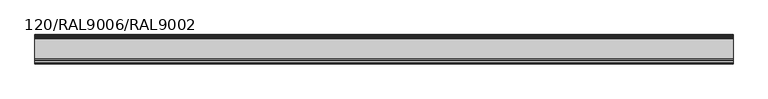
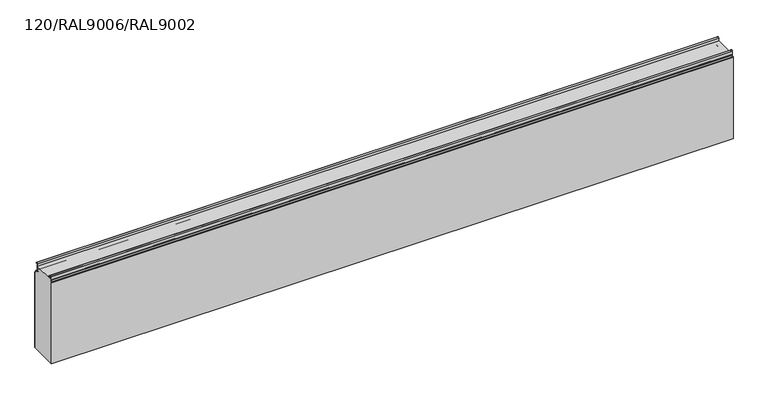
"""IFC4 building model written with IfcOpenShell, lengths in millimetres: plate geometry, TR_C_H_FHL_Panel_cut_TONGUE : 120/RAL9006/RAL9002."""

from ifc_helpers import new_model, si_unit, point, frame, frame_2d, origin, place, context, project, spatial, polyline, circle_curve, trimmed, segment, composite_curve, outline, extrude, source, transform, mapped, element, save


def plate_120_ral9006_ral9002_3dddc61d(model_context):
    return source(origin(), model_context, "Body", "SweptSolid", [
        extrude(outline(composite_curve([segment(polyline([(-17.4455763, 500.0), (-17.6, 498.2349288), (-17.6, 479.1)]), True, "CONTINUOUS"), segment(trimmed(circle_curve(frame_2d((-14.8, 479.1)), 2.8), [point((-17.6, 479.1))], [point((-14.8, 476.3))], True, "CARTESIAN"), True, "CONTINUOUS"), segment(polyline([(-14.8, 476.3), (-8.9, 476.3)]), True, "CONTINUOUS"), segment(trimmed(circle_curve(frame_2d((-8.9, 474.4)), 1.9), [point((-8.9, 476.3))], [point((-7.0, 474.4))], False, "CARTESIAN"), True, "CONTINUOUS"), segment(polyline([(-7.0, 474.4), (-7.0, 471.5838835)]), True, "CONTINUOUS"), segment(trimmed(circle_curve(frame_2d((-4.2, 471.5838835)), 2.8), [point((-7.0, 471.5838835))], [point((-6.179899, 469.6039845))], True, "CARTESIAN"), True, "CONTINUOUS"), segment(polyline([(-6.179899, 469.6039845), (-1.3564971, 464.7805826)]), True, "CONTINUOUS"), segment(trimmed(circle_curve(frame_2d((-2.7, 463.4370797)), 1.9), [point((-1.3564971, 464.7805826))], [point((-0.8, 463.4370797))], False, "CARTESIAN"), True, "CONTINUOUS"), segment(polyline([(-0.8, 463.4370797), (-0.8, 130.0), (-119.2, 130.0), (-119.2, 489.8218254)]), True, "CONTINUOUS"), segment(trimmed(circle_curve(frame_2d((-117.0, 489.8218254)), 2.2), [point((-119.2, 489.8218254))], [point((-118.5556349, 491.3774603))], False, "CARTESIAN"), True, "CONTINUOUS"), segment(polyline([(-118.5556349, 491.3774603), (-114.1665476, 495.7665476)]), True, "CONTINUOUS"), segment(trimmed(circle_curve(frame_2d((-116.5, 498.1)), 3.3), [point((-114.1665476, 495.7665476))], [point((-113.2, 498.1))], True, "CARTESIAN"), True, "CONTINUOUS"), segment(polyline([(-113.2, 498.1), (-113.2, 500.0), (-17.4455763, 500.0)]), True, "CONTINUOUS")], self_intersect=False)), frame((-1370.0, 0.0, 0.0), z_axis=(1.0, 0.0, 0.0), x_axis=(0.0, 1.0, 0.0)), (0.0, 0.0, 1.0), 2850.0),
        extrude(outline(composite_curve([segment(trimmed(circle_curve(frame_2d((-2.7, 463.4370797)), 1.9), [point((-0.8, 463.4370797))], [point((-1.3564971, 464.7805826))], True, "CARTESIAN"), True, "CONTINUOUS"), segment(polyline([(-1.3564971, 464.7805826), (-6.179899, 469.6039845)]), True, "CONTINUOUS"), segment(trimmed(circle_curve(frame_2d((-4.2, 471.5838835)), 2.8), [point((-6.179899, 469.6039845))], [point((-7.0, 471.5838835))], False, "CARTESIAN"), True, "CONTINUOUS"), segment(polyline([(-7.0, 471.5838835), (-7.0, 474.4)]), True, "CONTINUOUS"), segment(trimmed(circle_curve(frame_2d((-8.9, 474.4)), 1.9), [point((-7.0, 474.4))], [point((-8.9, 476.3))], True, "CARTESIAN"), True, "CONTINUOUS"), segment(polyline([(-8.9, 476.3), (-14.8, 476.3)]), True, "CONTINUOUS"), segment(trimmed(circle_curve(frame_2d((-14.8, 479.1)), 2.8), [point((-14.8, 476.3))], [point((-17.6, 479.1))], False, "CARTESIAN"), True, "CONTINUOUS"), segment(polyline([(-17.6, 479.1), (-17.6, 498.2349288), (-16.5051936, 510.748623)]), True, "CONTINUOUS"), segment(trimmed(circle_curve(frame_2d((-12.5204148, 510.4)), 4.0), [point((-16.5051936, 510.748623))], [point((-8.7383405, 511.7022726))], False, "CARTESIAN"), True, "CONTINUOUS"), segment(polyline([(-8.7383405, 511.7022726), (-8.4287263, 510.8030877), (-9.1851412, 510.5426332), (-9.4947554, 511.4418181)]), True, "CONTINUOUS"), segment(trimmed(circle_curve(frame_2d((-12.5204148, 510.4)), 3.2), [point((-9.4947554, 511.4418181))], [point((-15.7082379, 510.6788984))], True, "CARTESIAN"), True, "CONTINUOUS"), segment(polyline([(-15.7082379, 510.6788984), (-16.8, 498.2), (-16.8, 479.1)]), True, "CONTINUOUS"), segment(trimmed(circle_curve(frame_2d((-14.8, 479.1)), 2.0), [point((-16.8, 479.1))], [point((-14.8, 477.1))], True, "CARTESIAN"), True, "CONTINUOUS"), segment(polyline([(-14.8, 477.1), (-8.9, 477.1)]), True, "CONTINUOUS"), segment(trimmed(circle_curve(frame_2d((-8.9, 474.4)), 2.7), [point((-8.9, 477.1))], [point((-6.2, 474.4))], False, "CARTESIAN"), True, "CONTINUOUS"), segment(polyline([(-6.2, 474.4), (-6.2, 471.5838835)]), True, "CONTINUOUS"), segment(trimmed(circle_curve(frame_2d((-4.2, 471.5838835)), 2.0), [point((-6.2, 471.5838835))], [point((-5.6142136, 470.1696699))], True, "CARTESIAN"), True, "CONTINUOUS"), segment(polyline([(-5.6142136, 470.1696699), (-0.7908117, 465.346268)]), True, "CONTINUOUS"), segment(trimmed(circle_curve(frame_2d((-2.7, 463.4370797)), 2.7), [point((-0.7908117, 465.346268))], [point((0.0, 463.4370797))], False, "CARTESIAN"), True, "CONTINUOUS"), segment(polyline([(0.0, 463.4370797), (0.0, 130.0), (-0.8, 130.0), (-0.8, 463.4370797)]), True, "CONTINUOUS")], self_intersect=False)), frame((-1370.0, 0.0, 0.0), z_axis=(1.0, 0.0, 0.0), x_axis=(0.0, 1.0, 0.0)), (0.0, 0.0, 1.0), 2850.0),
        extrude(outline(composite_curve([segment(polyline([(-119.1213203, 491.9431458), (-114.732233, 496.332233)]), True, "CONTINUOUS"), segment(trimmed(circle_curve(frame_2d((-116.5, 498.1)), 2.5), [point((-114.732233, 496.332233))], [point((-114.0, 498.1))], True, "CARTESIAN"), True, "CONTINUOUS"), segment(polyline([(-114.0, 498.1), (-114.0, 512.85)]), True, "CONTINUOUS"), segment(trimmed(circle_curve(frame_2d((-110.75, 512.85)), 3.25), [point((-114.0, 512.85))], [point((-107.5493748, 513.4143566))], False, "CARTESIAN"), True, "CONTINUOUS"), segment(polyline([(-107.5493748, 513.4143566), (-106.8060618, 509.1988193)]), True, "CONTINUOUS"), segment(trimmed(circle_curve(frame_2d((-103.1130328, 509.85)), 3.75), [point((-106.8060618, 509.1988193))], [point((-103.1130328, 506.1))], True, "CARTESIAN"), True, "CONTINUOUS"), segment(polyline([(-103.1130328, 506.1), (-99.0, 506.1), (-99.0, 505.3), (-103.1130328, 505.3)]), True, "CONTINUOUS"), segment(trimmed(circle_curve(frame_2d((-103.1130328, 509.85)), 4.55), [point((-103.1130328, 505.3))], [point((-107.5939081, 509.0599008))], False, "CARTESIAN"), True, "CONTINUOUS"), segment(polyline([(-107.5939081, 509.0599008), (-108.337221, 513.275438)]), True, "CONTINUOUS"), segment(trimmed(circle_curve(frame_2d((-110.75, 512.85)), 2.45), [point((-108.337221, 513.275438))], [point((-113.2, 512.85))], True, "CARTESIAN"), True, "CONTINUOUS"), segment(polyline([(-113.2, 512.85), (-113.2, 498.1)]), True, "CONTINUOUS"), segment(trimmed(circle_curve(frame_2d((-116.5, 498.1)), 3.3), [point((-113.2, 498.1))], [point((-114.1665476, 495.7665476))], False, "CARTESIAN"), True, "CONTINUOUS"), segment(polyline([(-114.1665476, 495.7665476), (-118.5556349, 491.3774603)]), True, "CONTINUOUS"), segment(trimmed(circle_curve(frame_2d((-117.0, 489.8218254)), 2.2), [point((-118.5556349, 491.3774603))], [point((-119.2, 489.8218254))], True, "CARTESIAN"), True, "CONTINUOUS"), segment(polyline([(-119.2, 489.8218254), (-119.2, 130.0), (-120.0, 130.0), (-120.0, 489.8218254)]), True, "CONTINUOUS"), segment(trimmed(circle_curve(frame_2d((-117.0, 489.8218254)), 3.0), [point((-120.0, 489.8218254))], [point((-119.1213203, 491.9431458))], False, "CARTESIAN"), True, "CONTINUOUS")], self_intersect=False)), frame((-1370.0, 0.0, 0.0), z_axis=(1.0, 0.0, 0.0), x_axis=(0.0, 1.0, 0.0)), (0.0, 0.0, 1.0), 2850.0),
    ])


if __name__ == "__main__":
    model = new_model("IFC4")
    model_context = context("Model", 3, world=origin())
    ifc_project = project(units=[si_unit("LENGTHUNIT", "METRE", prefix="MILLI")], contexts=[model_context])
    site = spatial("IfcSite", under=ifc_project)
    building = spatial("IfcBuilding", under=site)
    placement = place(None, origin())
    plate_120_ral9006_ral9002_shape = plate_120_ral9006_ral9002_3dddc61d(model_context)
    element("IfcPlate", 1, ObjectType="TR_C_H_FHL_Panel_cut_TONGUE : 120/RAL9006/RAL9002", at=placement, inside=building, context=model_context, shape_type="MappedRepresentation", body=[
        mapped(plate_120_ral9006_ral9002_shape, transform((0.0, 0.0, 0.0), x_axis=(1.0, 0.0, 0.0), y_axis=(0.0, 1.0, 0.0), z_axis=(0.0, 0.0, 1.0))),
    ])
    save(model, "model.ifc")
